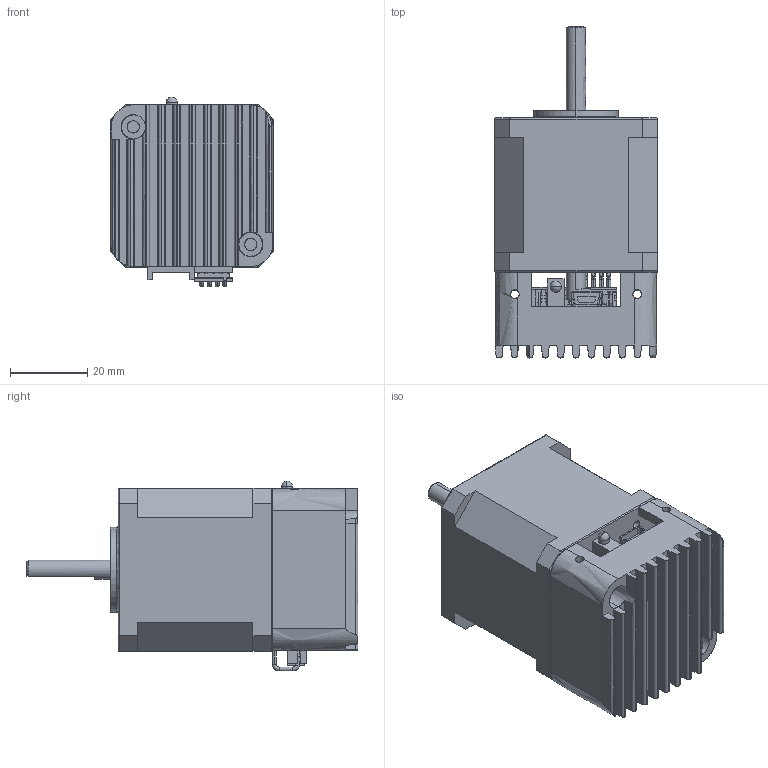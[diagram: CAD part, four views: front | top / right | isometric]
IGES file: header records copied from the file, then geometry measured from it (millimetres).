
Start section: SolidWorks IGES file using analytic representation for surfaces
Global section: file name: C:\Users\IEUser\Documents\Christine folder\Arcus\Project #23 DMX Drawings\DMX-J-SA\DMX-J-SA-17-2.IGS; native system: SolidWorks 2008; preprocessor: SolidWorks 2008; author: IEUser; date: 140224.214607; units: millimetre
Bounding box: 42.3 x 86.11 x 49.29 mm (x, y, z)
Surface area: 24334.9 mm2 (no closed solid volume)
Topology: 0 solids, 0 shells, 1133 faces, 8534 edges, 8516 vertices
Faces by surface type: bspline 877, revolution 256
